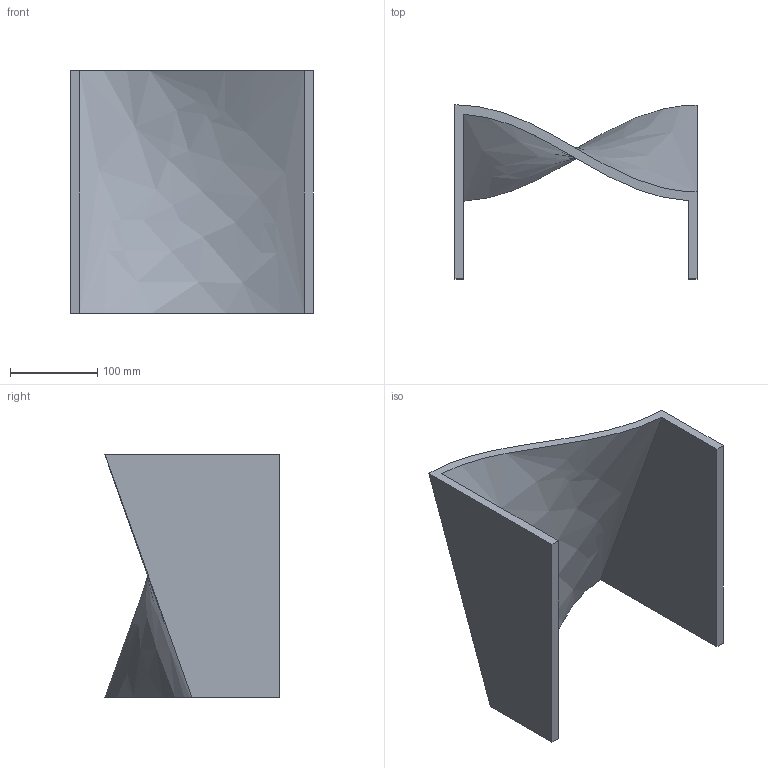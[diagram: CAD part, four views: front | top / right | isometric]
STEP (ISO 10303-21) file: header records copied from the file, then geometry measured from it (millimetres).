
FILE_DESCRIPTION(('CATIA V5 STEP Exchange'),'2;1');
FILE_NAME('C:\Users\andres.garcia\OneDrive - IQS\ASIGNATURAS\DAO\EXF\EXF-22223c\2inicio\Ej10-GARCIA_Andres.stp','2023-02-26T13:43:13+00:00',('none'),('none'),'CATIA Version 5-6 Release 2013 SP6','CATIA V5 STEP AP203','none');
FILE_SCHEMA(('CONFIG_CONTROL_DESIGN'));
Length unit declared in the file: millimetre
Products named in the file (1): Ej10-GARCIA_Andres
Bounding box: 278 x 200 x 278 mm (x, y, z)
Volume: 1592538.6 mm3; surface area: 335803.8 mm2
Topology: 1 solids, 1 shells, 10 faces, 24 edges, 16 vertices
Faces by surface type: plane 8, bspline 2
Entity records: 591 total; most frequent: CARTESIAN_POINT 337, ORIENTED_EDGE 48, DIRECTION 31, EDGE_CURVE 24, VECTOR 17, LINE 17, VERTEX_POINT 16, ADVANCED_FACE 10
